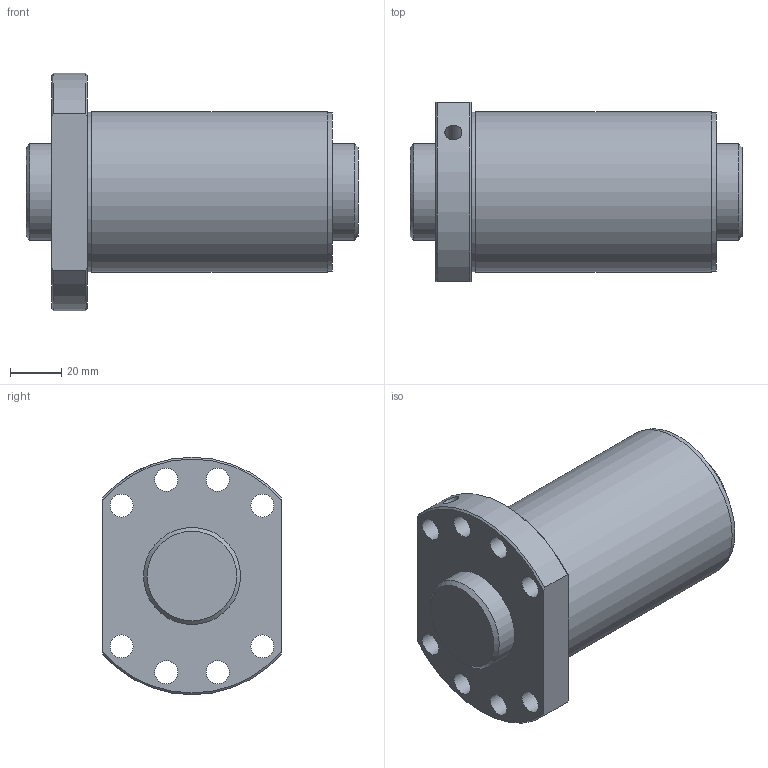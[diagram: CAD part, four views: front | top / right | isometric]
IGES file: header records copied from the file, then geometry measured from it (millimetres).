
Start section: Data from Parasolid IGES Translator 26.0.171, Copyright(c) 2006 Siemens PLM Software. All Rights Reserved.
Global section: file name: SDA3820V-5G0+130LC0(0G000).igs; native system: By Siemens PLM Incorporated; preprocessor: XPlus GENERIC/IGES 26.0.171; author: Noname; organization: Noname; date: 20240528.113354; units: millimetre
Bounding box: 130 x 70 x 93 mm (x, y, z)
Surface area: 65600.8 mm2 (no closed solid volume)
Topology: 0 solids, 0 shells, 33 faces, 154 edges, 128 vertices
Faces by surface type: revolution 24, extrusion 9
